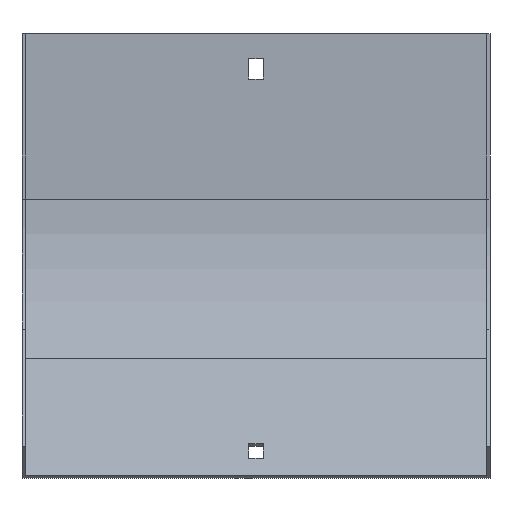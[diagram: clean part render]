
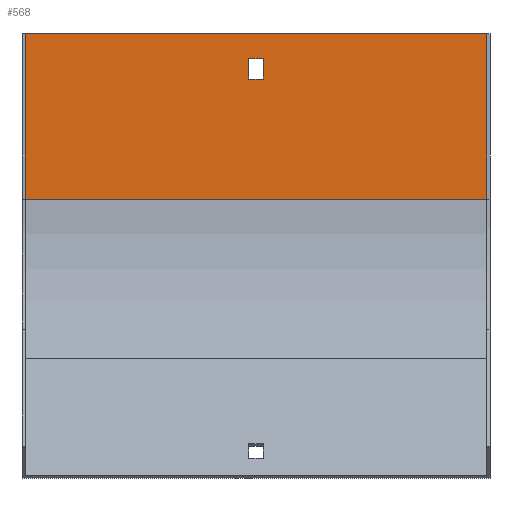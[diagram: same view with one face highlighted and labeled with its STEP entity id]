
A CAD part, front view. The second image highlights one B-rep face of the part: STEP entity #568.
In plain terms, the highlighted planar face has unit normal (0, -1, 0).
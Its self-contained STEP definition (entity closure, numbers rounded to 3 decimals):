
#1 = VERTEX_POINT ( 'NONE', #50 ) ;
#4 = VECTOR ( 'NONE', #574, 1000. ) ;
#16 = CARTESIAN_POINT ( 'NONE',  ( -102., -1.5, -73.1 ) ) ;
#25 = EDGE_CURVE ( 'NONE', #440, #454, #255, .T. ) ;
#29 = CARTESIAN_POINT ( 'NONE',  ( -3.25, -1.5, 0. ) ) ;
#31 = EDGE_CURVE ( 'NONE', #377, #159, #184, .T. ) ;
#35 = FACE_BOUND ( 'NONE', #857, .T. ) ;
#37 = CARTESIAN_POINT ( 'NONE',  ( 3.25, -1.5, 0. ) ) ;
#50 = CARTESIAN_POINT ( 'NONE',  ( -3.25, -1.5, -20. ) ) ;
#57 = CARTESIAN_POINT ( 'NONE',  ( 103.5, -1.5, 0. ) ) ;
#67 = DIRECTION ( 'NONE',  ( 0., 0., 1. ) ) ;
#71 = LINE ( 'NONE', #861, #158 ) ;
#104 = VECTOR ( 'NONE', #585, 1000. ) ;
#116 = EDGE_CURVE ( 'NONE', #454, #159, #303, .T. ) ;
#126 = EDGE_LOOP ( 'NONE', ( #443, #714, #149, #416 ) ) ;
#148 = VECTOR ( 'NONE', #628, 1000. ) ;
#149 = ORIENTED_EDGE ( 'NONE', *, *, #406, .T. ) ;
#158 = VECTOR ( 'NONE', #67, 1000. ) ;
#159 = VERTEX_POINT ( 'NONE', #438 ) ;
#161 = EDGE_CURVE ( 'NONE', #614, #198, #715, .T. ) ;
#162 = DIRECTION ( 'NONE',  ( 0., 0., -1. ) ) ;
#184 = LINE ( 'NONE', #711, #777 ) ;
#194 = VECTOR ( 'NONE', #210, 1000. ) ;
#198 = VERTEX_POINT ( 'NONE', #731 ) ;
#210 = DIRECTION ( 'NONE',  ( 1., 0., 0. ) ) ;
#247 = DIRECTION ( 'NONE',  ( 0., -1., 0. ) ) ;
#255 = LINE ( 'NONE', #701, #104 ) ;
#282 = VERTEX_POINT ( 'NONE', #534 ) ;
#295 = LINE ( 'NONE', #29, #427 ) ;
#303 = LINE ( 'NONE', #837, #822 ) ;
#311 = ORIENTED_EDGE ( 'NONE', *, *, #161, .F. ) ;
#330 = DIRECTION ( 'NONE',  ( 0., 0., -1. ) ) ;
#377 = VERTEX_POINT ( 'NONE', #684 ) ;
#378 = DIRECTION ( 'NONE',  ( 0., 0., 1. ) ) ;
#386 = DIRECTION ( 'NONE',  ( -1., 0., 0. ) ) ;
#395 = EDGE_CURVE ( 'NONE', #1, #614, #690, .T. ) ;
#406 = EDGE_CURVE ( 'NONE', #440, #377, #71, .T. ) ;
#416 = ORIENTED_EDGE ( 'NONE', *, *, #31, .T. ) ;
#427 = VECTOR ( 'NONE', #162, 1000. ) ;
#438 = CARTESIAN_POINT ( 'NONE',  ( -102., -1.5, 0. ) ) ;
#439 = AXIS2_PLACEMENT_3D ( 'NONE', #57, #247, #330 ) ;
#440 = VERTEX_POINT ( 'NONE', #824 ) ;
#443 = ORIENTED_EDGE ( 'NONE', *, *, #116, .F. ) ;
#454 = VERTEX_POINT ( 'NONE', #16 ) ;
#481 = EDGE_CURVE ( 'NONE', #282, #1, #295, .T. ) ;
#491 = CARTESIAN_POINT ( 'NONE',  ( 103.5, -1.5, -11. ) ) ;
#502 = ORIENTED_EDGE ( 'NONE', *, *, #395, .F. ) ;
#503 = LINE ( 'NONE', #491, #148 ) ;
#509 = EDGE_CURVE ( 'NONE', #198, #282, #503, .T. ) ;
#515 = PLANE ( 'NONE',  #439 ) ;
#534 = CARTESIAN_POINT ( 'NONE',  ( -3.25, -1.5, -11. ) ) ;
#568 = ADVANCED_FACE ( 'NONE', ( #35, #656 ), #515, .T. ) ;
#574 = DIRECTION ( 'NONE',  ( 0., 0., 1. ) ) ;
#585 = DIRECTION ( 'NONE',  ( -1., 0., 0. ) ) ;
#601 = ORIENTED_EDGE ( 'NONE', *, *, #509, .F. ) ;
#614 = VERTEX_POINT ( 'NONE', #835 ) ;
#628 = DIRECTION ( 'NONE',  ( -1., 0., 0. ) ) ;
#656 = FACE_OUTER_BOUND ( 'NONE', #126, .T. ) ;
#684 = CARTESIAN_POINT ( 'NONE',  ( 102., -1.5, 0. ) ) ;
#690 = LINE ( 'NONE', #804, #194 ) ;
#701 = CARTESIAN_POINT ( 'NONE',  ( 103.5, -1.5, -73.1 ) ) ;
#711 = CARTESIAN_POINT ( 'NONE',  ( 103.5, -1.5, 0. ) ) ;
#714 = ORIENTED_EDGE ( 'NONE', *, *, #25, .F. ) ;
#715 = LINE ( 'NONE', #37, #4 ) ;
#731 = CARTESIAN_POINT ( 'NONE',  ( 3.25, -1.5, -11. ) ) ;
#770 = ORIENTED_EDGE ( 'NONE', *, *, #481, .F. ) ;
#777 = VECTOR ( 'NONE', #386, 1000. ) ;
#804 = CARTESIAN_POINT ( 'NONE',  ( 103.5, -1.5, -20. ) ) ;
#822 = VECTOR ( 'NONE', #378, 1000. ) ;
#824 = CARTESIAN_POINT ( 'NONE',  ( 102., -1.5, -73.1 ) ) ;
#835 = CARTESIAN_POINT ( 'NONE',  ( 3.25, -1.5, -20. ) ) ;
#837 = CARTESIAN_POINT ( 'NONE',  ( -102., -1.5, -73.1 ) ) ;
#857 = EDGE_LOOP ( 'NONE', ( #770, #601, #311, #502 ) ) ;
#861 = CARTESIAN_POINT ( 'NONE',  ( 102., -1.5, -73.1 ) ) ;
